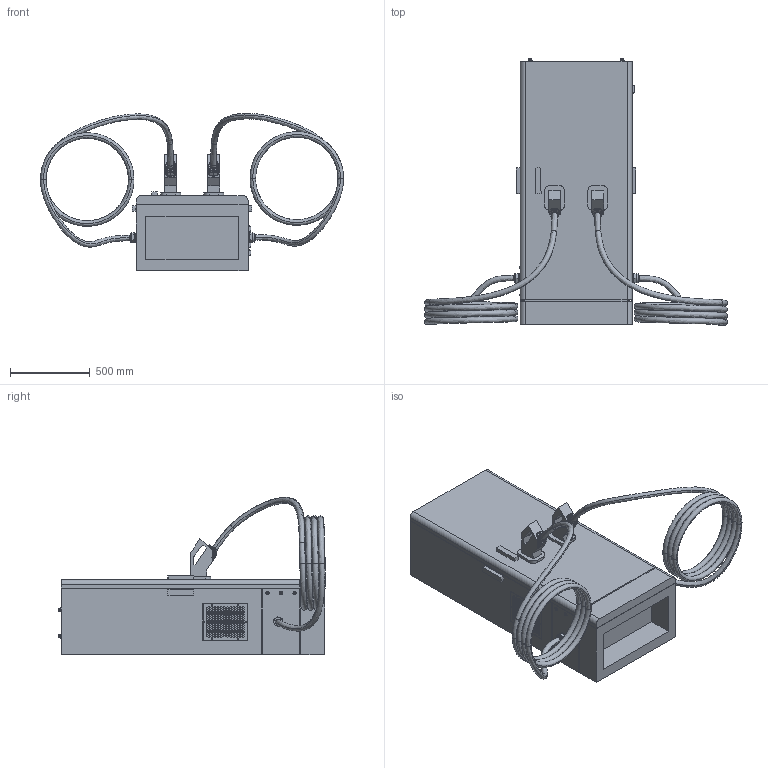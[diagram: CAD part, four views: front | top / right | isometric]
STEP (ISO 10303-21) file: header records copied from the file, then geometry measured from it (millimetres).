
FILE_DESCRIPTION((''),'2;1');
FILE_NAME('EVD2S60TBBC7_ASM','2025-04-09T16:07:53',('SESA730405'),('Schneider-Electric'),'CREO PARAMETRIC BY PTC INC, 2022484','CREO PARAMETRIC BY PTC INC, 2022484','');
FILE_SCHEMA(('AP242_MANAGED_MODEL_BASED_3D_ENGINEERING_MIM_LF { 1 0 10303 442 1 1 4 }'));
Products named in the file (26): EMPTYNODE_1744194356488_ASM_1; EVD2S60TBB-3D_1_1; EVD2S60TBB-3D_1_2; EVD2S60TBB-3D_1_3; EVD2S60TBB-3D_1_4; EVD2S60TBB-3D_1_5; EVD2S60TBB-3D_1_6; EVD2S60TBB-3D_1_ASM; EVD2S60TBB-3D_ASM_1_ASM; AJGPLA0942-20210520002_1_1_1; AJGALP0230-XKH__DH0001_1_1_1; AJGALP0229-GDH__DH0001_1_1_1; AJGFAS0860-ST3_5-20002_1_1_1; AJGPUB0326-MFQ-DL_0002_1_1_1; _LINE-142657500_1_1; _LINE-142658000_1_1; AJGPLA0942-20210520001_1_1_1; AJGALP0230-XKH__CO0001_1_1_1; AJGALP0229-GDH__CO0001_1_1_1; AJGFAS0860-ST3_5-20001_1_1_1; AJGPUB0326-MFQ-DL_0001_1_1_1; _COPY__2__OF_DH04B0001_ASM_2_1__ASM; _DH04B200040-202100001_ASM_2_1__ASM; LINE-142657500-3D_ASM_1_ASM; 1744194356434_ASM_1_ASM; EVD2S60TBBC7_ASM
Assembly tree (29 placements, depth 6):
  EVD2S60TBBC7_ASM
    1744194356434_ASM_1_ASM
      EMPTYNODE_1744194356488_ASM_1
      EVD2S60TBB-3D_ASM_1_ASM
        EVD2S60TBB-3D_1_ASM
          EVD2S60TBB-3D_1_1
          EVD2S60TBB-3D_1_2
          EVD2S60TBB-3D_1_3
          EVD2S60TBB-3D_1_4
          EVD2S60TBB-3D_1_5
          EVD2S60TBB-3D_1_6
      LINE-142657500-3D_ASM_1_ASM
        _DH04B200040-202100001_ASM_2_1__ASM
          AJGPLA0942-20210520002_1_1_1
          AJGALP0230-XKH__DH0001_1_1_1
          AJGALP0229-GDH__DH0001_1_1_1
          AJGFAS0860-ST3_5-20002_1_1_1  x3
          AJGPUB0326-MFQ-DL_0002_1_1_1
          _LINE-142657500_1_1
          _LINE-142658000_1_1
          _COPY__2__OF_DH04B0001_ASM_2_1__ASM
            AJGPLA0942-20210520001_1_1_1
            AJGALP0230-XKH__CO0001_1_1_1
            AJGALP0229-GDH__CO0001_1_1_1
            AJGFAS0860-ST3_5-20001_1_1_1  x3
            AJGPUB0326-MFQ-DL_0001_1_1_1
Bounding box: 1897.77 x 1669.6 x 984.69 mm (x, y, z)
Volume: 528605452.7 mm3; surface area: 11673208.6 mm2
Topology: 22 solids, 23 shells, 10417 faces, 27402 edges, 17900 vertices
Faces by surface type: plane 6745, cylinder 1166, extrusion 928, bspline 650, torus 532, cone 290, sphere 106
Entity records: 477470 total; most frequent: CARTESIAN_POINT 128492, ORIENTED_EDGE 53816, DIRECTION 43594, PRESENTATION_STYLE_ASSIGNMENT 30087, STYLED_ITEM 29899, CURVE_STYLE 26918, EDGE_CURVE 26908, VECTOR 19900
